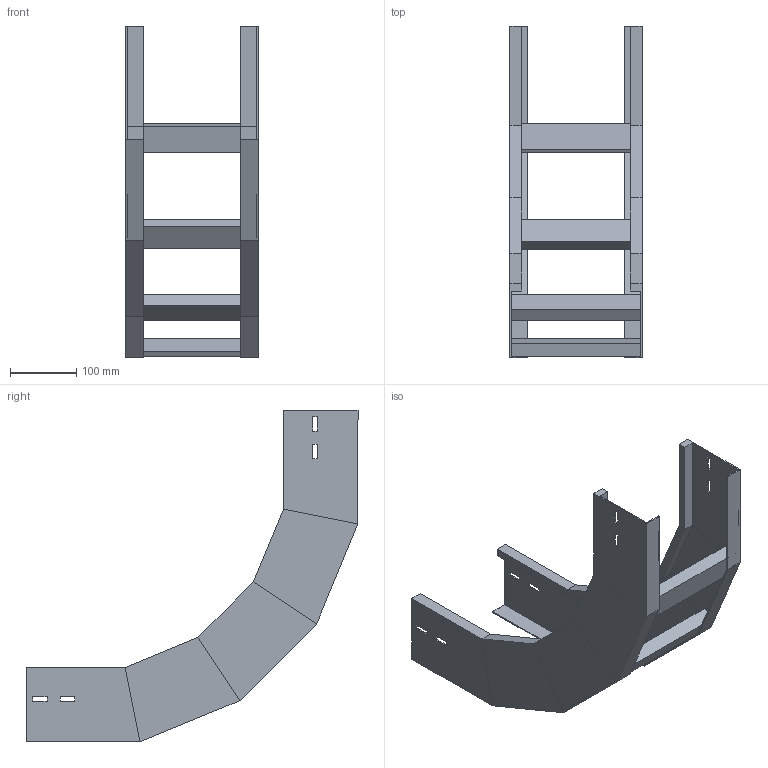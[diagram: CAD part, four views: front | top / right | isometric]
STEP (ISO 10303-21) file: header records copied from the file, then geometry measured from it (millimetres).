
FILE_DESCRIPTION (( 'STEP AP214' ), '1' );
FILE_NAME ('AX30B3J200XX.step', '2025-03-20T10:22:31', ( '' ), ( '' ), 'SwSTEP 2.0', 'SolidWorks 2023', '' );
FILE_SCHEMA (( 'AUTOMOTIVE_DESIGN' ));
Length unit declared in the file: millimetre
Products named in the file (3): TRAVERSINO_200; AX30B3J200XX; LONGH.SALITA_90°_H112.5_R300
Assembly tree (6 placements, depth 2):
  AX30B3J200XX
    LONGH.SALITA_90°_H112.5_R300  x2
    TRAVERSINO_200  x4
Bounding box: 200 x 501.33 x 501.33 mm (x, y, z)
Volume: 1306669.2 mm3; surface area: 568858.1 mm2
Topology: 6 solids, 6 shells, 140 faces, 320 edges, 192 vertices
Faces by surface type: plane 140
Entity records: 1872 total; most frequent: CARTESIAN_POINT 309, ORIENTED_EDGE 296, DIRECTION 294, LINE 148, EDGE_CURVE 148, VECTOR 148, VERTEX_POINT 88, AXIS2_PLACEMENT_3D 73
